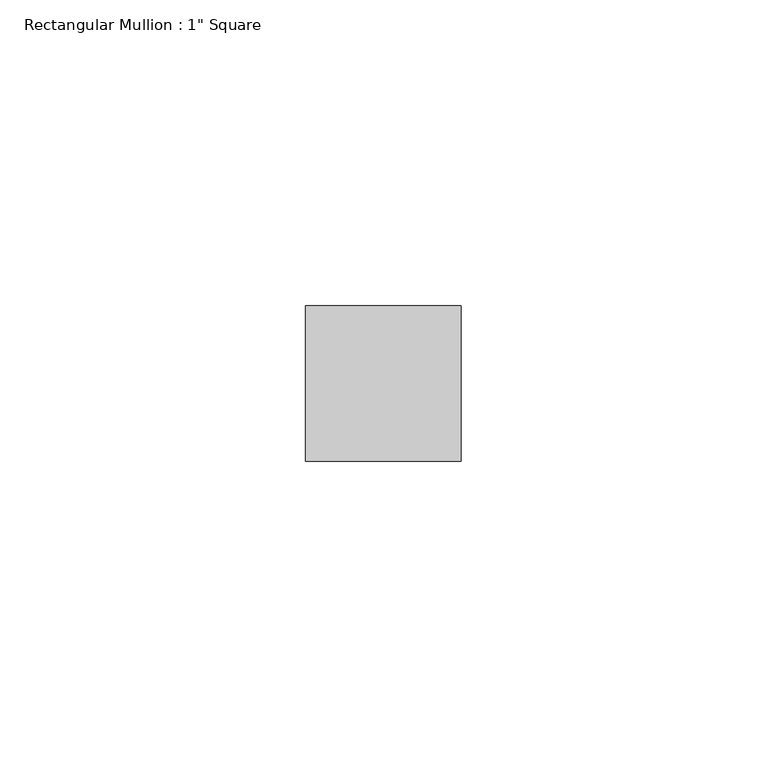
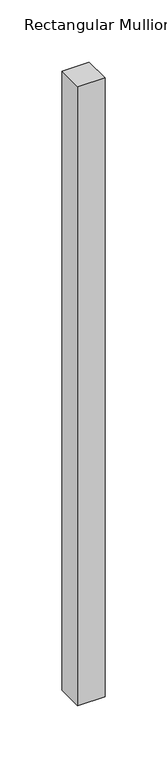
"""IFC4 building model written with IfcOpenShell, lengths in millimetres: member geometry."""

from ifc_helpers import new_model, si_unit, frame, origin, place, context, project, spatial, polyline, outline, extrude, source, transform, mapped, element, save


def member_1634b5e1(model_context):
    return source(origin(), model_context, "Body", "SweptSolid", [
        extrude(outline(polyline([(0.0, 44.45), (0.0, 19.05), (-25.4, 19.05), (-25.4, 44.45), (0.0, 44.45)])), frame((0.0, 0.0, -609.6), z_axis=(0.0, 0.0, 1.0), x_axis=(1.0, 0.0, 0.0)), (0.0, 0.0, 1.0), 609.6),
    ])


if __name__ == "__main__":
    model = new_model("IFC4")
    model_context = context("Model", 3, world=origin())
    ifc_project = project(units=[si_unit("LENGTHUNIT", "METRE", prefix="MILLI")], contexts=[model_context])
    site = spatial("IfcSite", under=ifc_project)
    building = spatial("IfcBuilding", under=site)
    placement = place(None, origin())
    member_shape = member_1634b5e1(model_context)
    element("IfcMember", 1, ObjectType="Rectangular Mullion : 1\" Square", at=placement, inside=building, context=model_context, shape_type="MappedRepresentation", body=[
        mapped(member_shape, transform((0.0, 0.0, 0.0), x_axis=(1.0, 0.0, 0.0), y_axis=(0.0, 1.0, 0.0), z_axis=(0.0, 0.0, 1.0))),
    ])
    save(model, "model.ifc")
